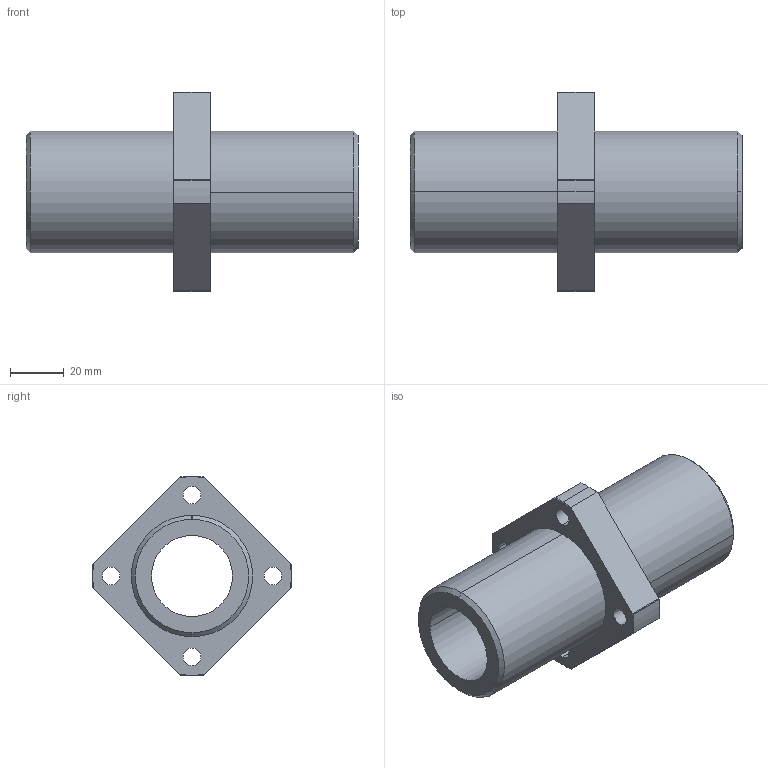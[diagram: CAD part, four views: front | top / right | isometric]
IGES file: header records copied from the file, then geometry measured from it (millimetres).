
Start section: 3D InterOp IGES (Version 21 0 1), Spatial Corp. Copyright (c) 1999-2007.
Global section: file name: CFPJ30.igs; native system: Spatial Corp.; preprocessor: 3D InterOp GENERIC/IGES 3.0; author: Noname; organization: Noname; date: 20220324.125938; units: millimetre
Bounding box: 123 x 73.95 x 74 mm (x, y, z)
Surface area: 36194.4 mm2 (no closed solid volume)
Topology: 0 solids, 0 shells, 53 faces, 264 edges, 264 vertices
Faces by surface type: revolution 41, extrusion 12
